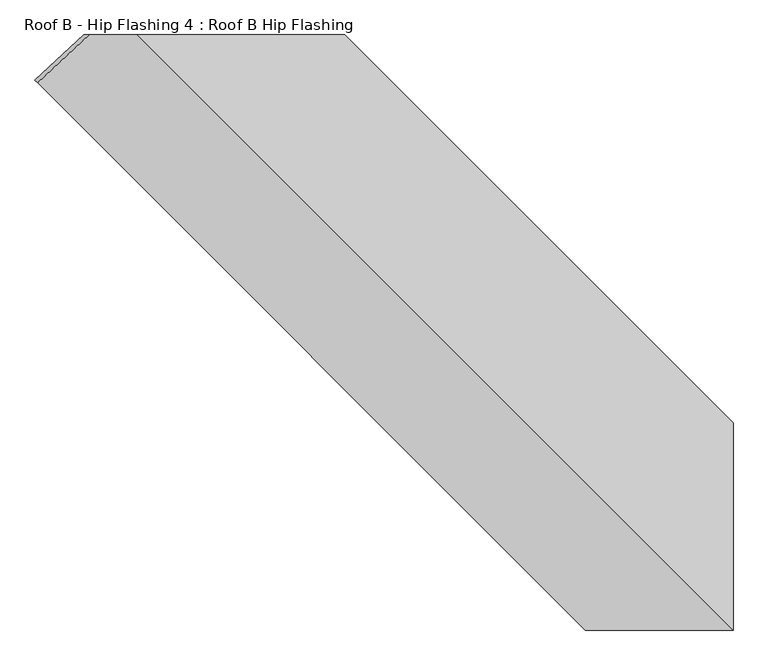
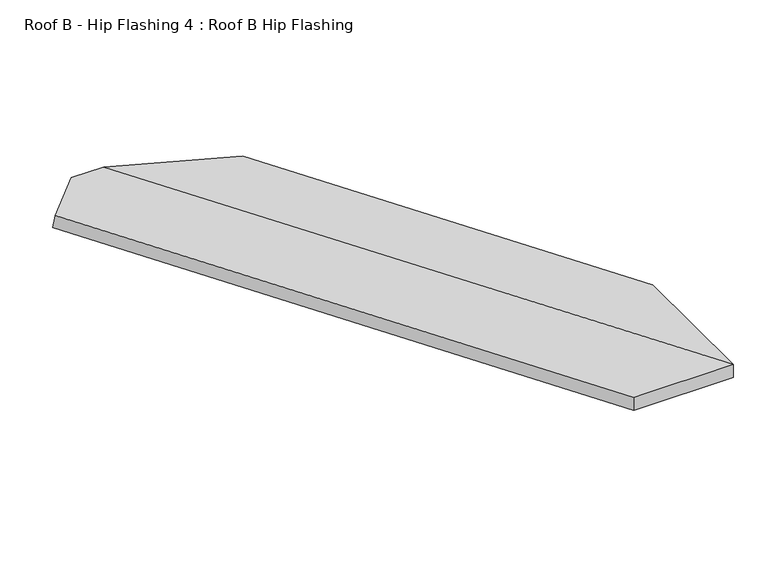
"""IFC4 building model written with IfcOpenShell, lengths in millimetres: proxy geometry, Roof B - Hip Flashing 4 : Roof B Hip Flashing."""

from ifc_helpers import new_model, si_unit, origin, place, context, project, spatial, faceted_brep, source, transform, mapped, element, save


def roof_b_hip_flashing_4_roof_b_hip_flashing_d01cb08e(model_context):
    return source(origin(), model_context, "Body", "Brep", [
        faceted_brep([(-12776.0969668, -25394.6251354, 3588.3395553), (-12770.1638051, -25400.5582971, 3632.6252769), (-12652.398352, -25290.6816335, 3662.0666402), (-12664.6906571, -25290.6816335, 3616.1911327), (-12067.9234147, -25290.6816335, 3489.2228774), (-12067.9234147, -25290.6816335, 3535.1026447), (-11180.7727968, -26177.8322514, 3297.391353), (-11180.7727968, -26177.8322514, 3251.5115857), (-12541.7594967, -25290.6816335, 3662.0666402), (-11180.7731224, -26651.6680078, 3297.3914403), (-11519.0540944, -26651.6680078, 3297.3914403), (-11519.0540944, -26651.6680078, 3251.5159328), (-11180.7890203, -26651.6680078, 3251.5159328), (-12541.7753947, -25290.6816335, 3616.1911327)], [[[0, 1, 2, 3]], [[4, 5, 6, 7]], [[8, 9, 6, 5]], [[1, 10, 9, 8, 2]], [[1, 0, 11, 10]], [[12, 13, 4, 7]], [[11, 0, 3, 13, 12]], [[9, 10, 11, 12]], [[3, 2, 8, 5, 4, 13]], [[7, 6, 9, 12]]]),
    ])


if __name__ == "__main__":
    model = new_model("IFC4")
    model_context = context("Model", 3, world=origin())
    ifc_project = project(units=[si_unit("LENGTHUNIT", "METRE", prefix="MILLI")], contexts=[model_context])
    site = spatial("IfcSite", under=ifc_project)
    building = spatial("IfcBuilding", under=site)
    placement = place(None, origin())
    roof_b_hip_flashing_4_roof_b_hip_flashing_shape = roof_b_hip_flashing_4_roof_b_hip_flashing_d01cb08e(model_context)
    element("IfcBuildingElementProxy", 1, Name="Roof B - Hip Flashing 4 : Roof B Hip Flashing", ObjectType="Roof B - Hip Flashing 4 : Roof B Hip Flashing", at=placement, inside=building, context=model_context, shape_type="MappedRepresentation", body=[
        mapped(roof_b_hip_flashing_4_roof_b_hip_flashing_shape, transform((0.0, 0.0, 0.0), x_axis=(1.0, 0.0, 0.0), y_axis=(0.0, 1.0, 0.0), z_axis=(0.0, 0.0, 1.0))),
    ])
    save(model, "model.ifc")
